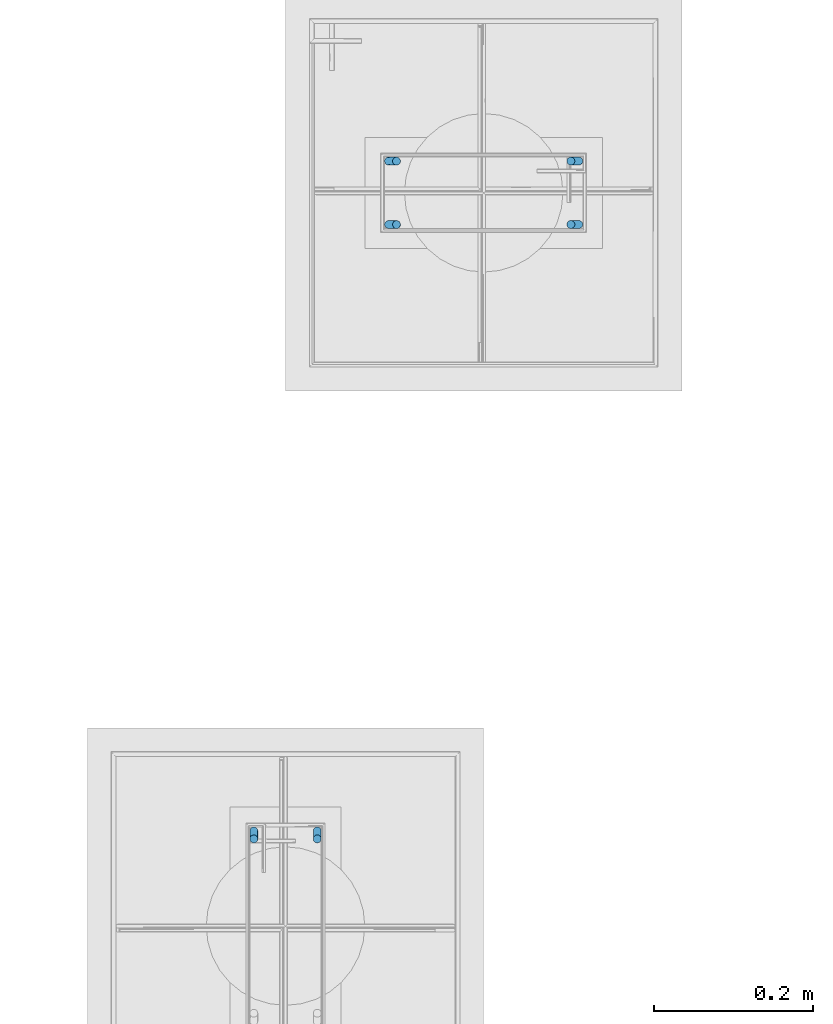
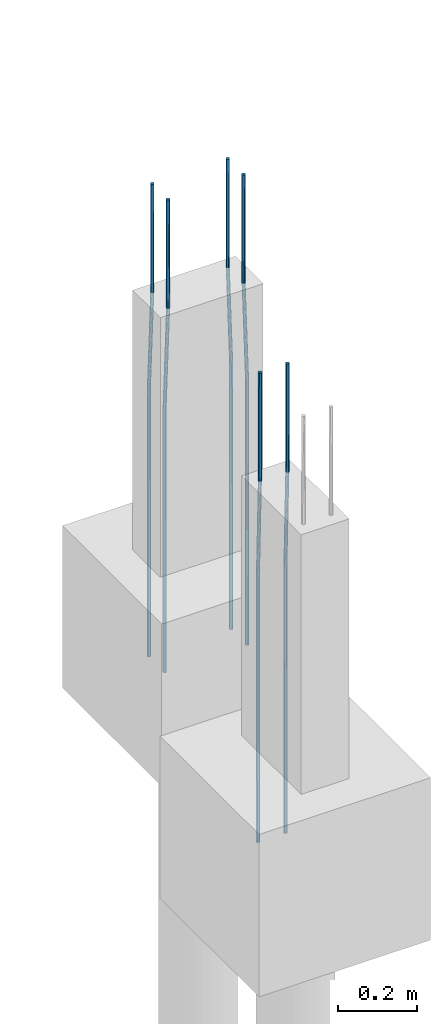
# One storey, part 60 of 119: 6 reinforcing bars.
"""IFC4 building model written with IfcOpenShell, lengths in centimetres."""

from ifc_helpers import new_model, entity, si_unit, derived_unit, frame, origin_with_axes, place, context, project, spatial, element, save


model = new_model("IFC4")

# Units and contexts
model_context = context("Model", 3, precision=1e-05, world=origin_with_axes(), identifier="Body")
ifc_project = project(units=[si_unit("LENGTHUNIT", "METRE", prefix="CENTI"), si_unit("VOLUMEUNIT", "CUBIC_METRE"), si_unit("AREAUNIT", "SQUARE_METRE"), si_unit("POWERUNIT", "WATT"), si_unit("LUMINOUSFLUXUNIT", "LUMEN"), si_unit("ELECTRICCURRENTUNIT", "AMPERE"), si_unit("PRESSUREUNIT", "PASCAL", prefix="KILO"), si_unit("MASSUNIT", "GRAM", prefix="KILO"), si_unit("PLANEANGLEUNIT", "RADIAN"), derived_unit("VOLUMETRICFLOWRATEUNIT", [(si_unit("LENGTHUNIT", "METRE"), 3), (si_unit("TIMEUNIT", "SECOND"), -1)])], contexts=[model_context])

# Site, building, storey
site_placement = place(None, frame((-4000.0, 0.0, 0.0), z_axis=(0.0, 0.0, 1.0), x_axis=(1.0, 0.0, 0.0)))
site = spatial("IfcSite", under=ifc_project, at=site_placement, Name="PADRÃO")
building_placement = place(site_placement, frame((0.0, 0.0, -14.0)))
building = spatial("IfcBuilding", under=site, at=building_placement, Name="CRECHE PRÉ-ESCOLA TIPO 2")
storey_placement = place(building_placement, origin_with_axes())
storey = spatial("IfcBuildingStorey", under=building, at=storey_placement, Name="FUNDAÇÃO", CompositionType="ELEMENT", Elevation=-14.0)

# Reinforcing bars
reinforcing_bar_1_placement = place(storey_placement, frame((3152.0, 4080.02, 33.3573001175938), z_axis=(0.0, 0.0, 1.0), x_axis=(1.0, 0.0, 0.0)))
element("IfcReinforcingBar", 1, at=reinforcing_bar_1_placement, inside=storey, Name="P22 - Longitudinal", BarLength=0.0, CrossSectionArea=7.853981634e-05, NominalDiameter=1.0, PredefinedType="MAIN", context=model_context, shape_type="AdvancedSweptSolid", body=[
    entity("IfcSweptDiskSolid", entity("IfcCompositeCurve", [entity("IfcCompositeCurveSegment", "CONTINUOUS", True, entity("IfcPolyline", [entity("IfcCartesianPoint", [-0.5, 0.0, -145.357300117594]), entity("IfcCartesianPoint", [-0.5, 0.0, -63.3573001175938])])), entity("IfcCompositeCurveSegment", "CONTINUOUS", True, entity("IfcPolyline", [entity("IfcCartesianPoint", [-0.5, 0.0, -63.3573001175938]), entity("IfcCartesianPoint", [0.5, 0.0, -33.3573001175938])])), entity("IfcCompositeCurveSegment", "CONTINUOUS", True, entity("IfcPolyline", [entity("IfcCartesianPoint", [0.5, 0.0, -33.3573001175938]), entity("IfcCartesianPoint", [0.5, 0.0, 0.0])]))], False), 0.5),
])
for number, where, z_axis, x_axis, name in (
    (2, (3175.0, 4088.02, 33.3573001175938), (0.0, 0.0, 1.0), (1.0, 0.0, 0.0), "P22 - Longitudinal"),
    (3, (3175.0, 4080.02, 33.3573001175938), (0.0, 0.0, 1.0), (1.0, 0.0, 0.0), "P22 - Longitudinal"),
):
    element("IfcReinforcingBar", number, at=place(storey_placement, frame(where, z_axis=z_axis, x_axis=x_axis)), inside=storey, Name=name, BarLength=0.0, CrossSectionArea=7.853981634e-05, NominalDiameter=1.0, PredefinedType="MAIN", context=model_context, shape_type="AdvancedSweptSolid", body=[
        entity("IfcSweptDiskSolid", entity("IfcCompositeCurve", [entity("IfcCompositeCurveSegment", "CONTINUOUS", True, entity("IfcPolyline", [entity("IfcCartesianPoint", [0.5, 0.0, -145.357300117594]), entity("IfcCartesianPoint", [0.5, 0.0, -63.3573001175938])])), entity("IfcCompositeCurveSegment", "CONTINUOUS", True, entity("IfcPolyline", [entity("IfcCartesianPoint", [0.5, 0.0, -63.3573001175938]), entity("IfcCartesianPoint", [-0.5, 0.0, -33.3573001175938])])), entity("IfcCompositeCurveSegment", "CONTINUOUS", True, entity("IfcPolyline", [entity("IfcCartesianPoint", [-0.5, 0.0, -33.3573001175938]), entity("IfcCartesianPoint", [-0.5, 0.0, 0.0])]))], False), 0.5),
    ])
reinforcing_bar_2_placement = place(storey_placement, frame((3152.0, 4088.02, 33.3573001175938), z_axis=(0.0, 0.0, 1.0), x_axis=(1.0, 0.0, 0.0)))
element("IfcReinforcingBar", 4, at=reinforcing_bar_2_placement, inside=storey, Name="P22 - Longitudinal", BarLength=0.0, CrossSectionArea=7.853981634e-05, NominalDiameter=1.0, PredefinedType="MAIN", context=model_context, shape_type="AdvancedSweptSolid", body=[
    entity("IfcSweptDiskSolid", entity("IfcCompositeCurve", [entity("IfcCompositeCurveSegment", "CONTINUOUS", True, entity("IfcPolyline", [entity("IfcCartesianPoint", [-0.5, 0.0, -145.357300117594]), entity("IfcCartesianPoint", [-0.5, 0.0, -63.3573001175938])])), entity("IfcCompositeCurveSegment", "CONTINUOUS", True, entity("IfcPolyline", [entity("IfcCartesianPoint", [-0.5, 0.0, -63.3573001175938]), entity("IfcCartesianPoint", [0.5, 0.0, -33.3573001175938])])), entity("IfcCompositeCurveSegment", "CONTINUOUS", True, entity("IfcPolyline", [entity("IfcCartesianPoint", [0.5, 0.0, -33.3573001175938]), entity("IfcCartesianPoint", [0.5, 0.0, 0.0])]))], False), 0.5),
])
for number, where, z_axis, x_axis, name in (
    (5, (3142.5, 4003.01, 33.3573001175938), (0.0, 0.0, 1.0), (1.0, 0.0, 0.0), "P27 - Longitudinal"),
    (6, (3134.5, 4003.01, 33.3573001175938), (0.0, 0.0, 1.0), (1.0, 0.0, 0.0), "P27 - Longitudinal"),
):
    element("IfcReinforcingBar", number, at=place(storey_placement, frame(where, z_axis=z_axis, x_axis=x_axis)), inside=storey, Name=name, BarLength=0.0, CrossSectionArea=7.853981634e-05, NominalDiameter=1.0, PredefinedType="MAIN", context=model_context, shape_type="AdvancedSweptSolid", body=[
        entity("IfcSweptDiskSolid", entity("IfcCompositeCurve", [entity("IfcCompositeCurveSegment", "CONTINUOUS", True, entity("IfcPolyline", [entity("IfcCartesianPoint", [0.0, 0.5, -145.357300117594]), entity("IfcCartesianPoint", [0.0, 0.5, -63.3573001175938])])), entity("IfcCompositeCurveSegment", "CONTINUOUS", True, entity("IfcPolyline", [entity("IfcCartesianPoint", [0.0, 0.5, -63.3573001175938]), entity("IfcCartesianPoint", [0.0, -0.5, -33.3573001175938])])), entity("IfcCompositeCurveSegment", "CONTINUOUS", True, entity("IfcPolyline", [entity("IfcCartesianPoint", [0.0, -0.5, -33.3573001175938]), entity("IfcCartesianPoint", [0.0, -0.5, 0.0])]))], False), 0.5),
    ])

save(model, "model.ifc")
